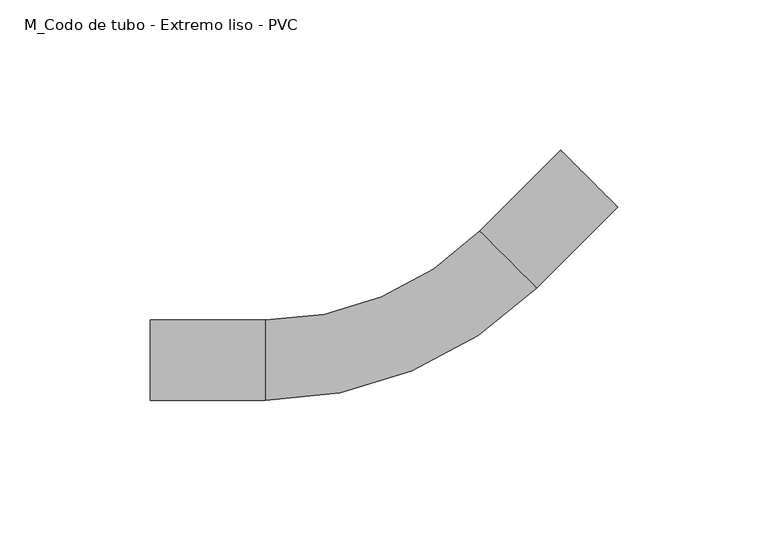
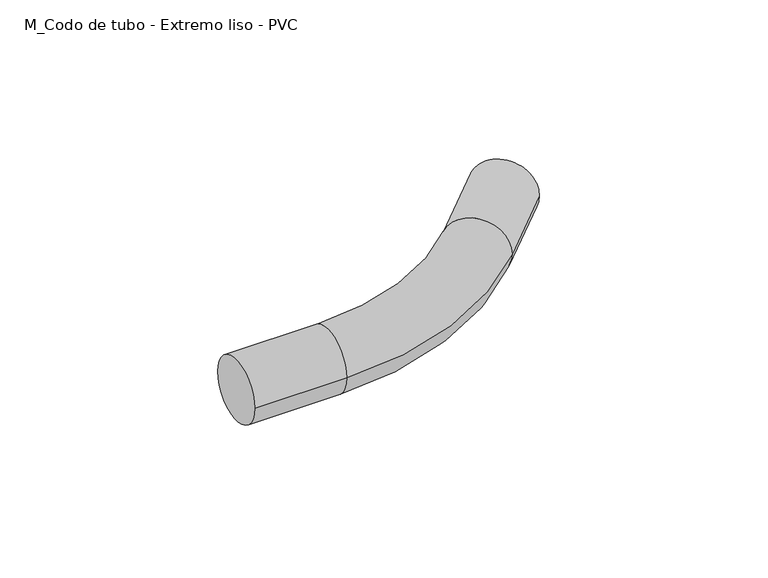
"""IFC4 building model written with IfcOpenShell, lengths in millimetres: cable carrier fitting geometry, M_Codo de tubo - Extremo liso - PVC : CODO POTENCIA."""

from ifc_helpers import new_model, si_unit, point, frame, origin, place, context, project, spatial, circle_curve, ellipse_curve, trimmed, source, transform, mapped, element, save
from ifc_brep_helpers import plane_surface, cylinder_surface, revolved_surface, advanced_brep


def m_codo_de_tubo_extremo_liso_pvc_b355e40d(model_context):
    return source(origin(), model_context, "Body", "AdvancedBrep", [
        advanced_brep(
        [(-85.4446102, -13.335, 0.0), (-85.4446102, 13.335, 0.0), (-47.3446102, -13.335, 0.0), (-47.3446102, 13.335, 0.0), (24.048426, 42.9069638, 0.0), (42.9069638, 24.048426, 0.0), (69.8477322, 50.9891943, 0.0), (50.9891943, 69.8477322, 0.0)],
        [
            (0, 1, circle_curve(frame((-85.4446102, 0.0, 0.0), z_axis=(-1.0, 0.0, 0.0), x_axis=(0.0, 1.0, 0.0)), 13.335)),
            (1, 0, circle_curve(frame((-85.4446102, 0.0, 0.0), z_axis=(-1.0, 0.0, 0.0), x_axis=(0.0, 1.0, 0.0)), 13.335)),
            (0, 2),
            (2, 3, circle_curve(frame((-47.3446102, 0.0, 0.0), z_axis=(-1.0, 0.0, 0.0), x_axis=(0.0, 1.0, 0.0)), 13.335)),
            (3, 1),
            (3, 2, circle_curve(frame((-47.3446102, 0.0, 0.0), z_axis=(-1.0, 0.0, 0.0), x_axis=(0.0, 1.0, 0.0)), 13.335)),
            (4, 3, circle_curve(frame((-47.3446102, 114.3, 0.0), z_axis=(0.0, 0.0, -1.0), x_axis=(0.0, -1.0, 0.0)), 100.965)),
            (2, 5, circle_curve(frame((-47.3446102, 114.3, 0.0), z_axis=(0.0, 0.0, 1.0), x_axis=(0.0, -1.0, 0.0)), 127.635)),
            (5, 4, circle_curve(frame((33.4776949, 33.4776949, 0.0), z_axis=(-0.7071067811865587, -0.7071067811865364, 0.0), x_axis=(-0.7071067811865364, 0.7071067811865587, 0.0)), 13.335)),
            (4, 5, circle_curve(frame((33.4776949, 33.4776949, 0.0), z_axis=(-0.7071067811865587, -0.7071067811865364, 0.0), x_axis=(-0.7071067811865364, 0.7071067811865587, 0.0)), 13.335)),
            (6, 7, circle_curve(frame((60.4184633, 60.4184633, 0.0), z_axis=(0.7071067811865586, 0.7071067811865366, 0.0), x_axis=(-0.7071067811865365, 0.7071067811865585, 0.0)), 13.335)),
            (7, 6, circle_curve(frame((60.4184633, 60.4184633, 0.0), z_axis=(0.7071067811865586, 0.7071067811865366, 0.0), x_axis=(-0.7071067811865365, 0.7071067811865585, 0.0)), 13.335)),
            (5, 6),
            (7, 4),
        ],
        [
            plane_surface(frame((-85.4446102, 0.0, 0.0), z_axis=(-1.0, 0.0, 0.0), x_axis=(0.0, 0.0, 1.0))),
            cylinder_surface(frame((-85.4446102, 0.0, 0.0), z_axis=(-1.0, 0.0, 0.0), x_axis=(0.0, 1.0, 0.0)), 13.335),
            revolved_surface(trimmed(ellipse_curve(frame((-47.3446102, 0.0, 0.0), z_axis=(-1.0, 0.0, 0.0), x_axis=(0.0, 1.0, 0.0)), 13.335, 13.335), [point((-47.3446102, -13.335, 0.0))], [point((-47.3446102, 13.335, 0.0))], True, "CARTESIAN"), (-47.3446102, 114.3, 0.0), (0.0, 0.0, 1.0)),
            revolved_surface(trimmed(ellipse_curve(frame((-47.3446102, 0.0, 0.0), z_axis=(-1.0, 0.0, 0.0), x_axis=(0.0, 1.0, 0.0)), 13.335, 13.335), [point((-47.3446102, 13.335, 0.0))], [point((-47.3446102, -13.335, 0.0))], True, "CARTESIAN"), (-47.3446102, 114.3, 0.0), (0.0, 0.0, 1.0)),
            plane_surface(frame((60.4184633, 60.4184633, 0.0), z_axis=(0.7071067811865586, 0.7071067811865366, 0.0), x_axis=(0.0, 0.0, 1.0))),
            cylinder_surface(frame((33.4776949, 33.4776949, 0.0), z_axis=(-0.7071067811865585, -0.7071067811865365, 0.0), x_axis=(-0.7071067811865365, 0.7071067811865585, 0.0)), 13.335),
        ],
        [
            (0, [[1, 2]]),
            (1, [[-1, 3, 4, 5]]),
            (1, [[-2, -5, 6, -3]]),
            (2, [[7, -4, 8, 9]]),
            (3, [[-8, -6, -7, 10]]),
            (4, [[11, 12]]),
            (5, [[-9, 13, -12, 14]]),
            (5, [[-10, -14, -11, -13]]),
        ],
    ),
    ])


if __name__ == "__main__":
    model = new_model("IFC4")
    model_context = context("Model", 3, world=origin())
    ifc_project = project(units=[si_unit("LENGTHUNIT", "METRE", prefix="MILLI")], contexts=[model_context])
    site = spatial("IfcSite", under=ifc_project)
    building = spatial("IfcBuilding", under=site)
    placement = place(None, origin())
    m_codo_de_tubo_extremo_liso_pvc_shape = m_codo_de_tubo_extremo_liso_pvc_b355e40d(model_context)
    element("IfcCableCarrierFitting", 1, ObjectType="M_Codo de tubo - Extremo liso - PVC : CODO POTENCIA", at=placement, inside=building, context=model_context, shape_type="MappedRepresentation", body=[
        mapped(m_codo_de_tubo_extremo_liso_pvc_shape, transform((0.0, 0.0, 0.0), x_axis=(1.0, 0.0, 0.0), y_axis=(0.0, 1.0, 0.0), z_axis=(0.0, 0.0, 1.0))),
    ])
    save(model, "model.ifc")
